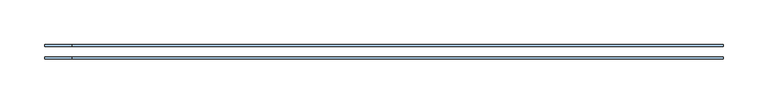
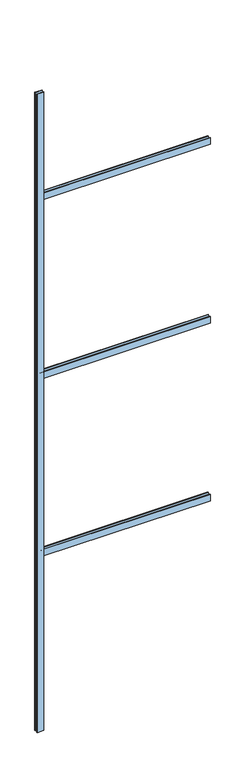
"""IFC4 building model written with IfcOpenShell, lengths in millimetres: window geometry, 32_IM_CF_verdeling_roedes : 32_IM_CF_verdeling_roedes_1x4."""

from ifc_helpers import new_model, si_unit, frame, origin, origin_with_axes, place, context, project, spatial, polyline, outline, extrude, source, transform, mapped, element, save


def window_2bc96638(model_context):
    return source(origin(), model_context, "Body", "SweptSolid", [
        extrude(outline(polyline([(-356.0, 6.0), (-386.0, 6.0), (-386.0, 8.0), (-356.0, 8.0), (-356.0, 6.0)])), origin_with_axes(), (0.0, 0.0, 1.0), 2945.0),
        extrude(outline(polyline([(-386.0, -8.0), (-386.0, -6.0), (-356.0, -6.0), (-356.0, -8.0), (-386.0, -8.0)])), origin_with_axes(), (0.0, 0.0, 1.0), 2945.0),
        extrude(outline(polyline([(371.0, 8.0), (371.0, 6.0), (-371.0, 6.0), (-371.0, 8.0), (371.0, 8.0)])), frame((0.0, 0.0, 805.0), z_axis=(0.0, 0.0, 1.0), x_axis=(1.0, 0.0, 0.0)), (0.0, 0.0, 1.0), 30.0),
        extrude(outline(polyline([(371.0, -6.0), (371.0, -8.0), (-371.0, -8.0), (-371.0, -6.0), (371.0, -6.0)])), frame((0.0, 0.0, 805.0), z_axis=(0.0, 0.0, 1.0), x_axis=(1.0, 0.0, 0.0)), (0.0, 0.0, 1.0), 30.0),
        extrude(outline(polyline([(371.0, 8.0), (371.0, 6.0), (-371.0, 6.0), (-371.0, 8.0), (371.0, 8.0)])), frame((0.0, 0.0, 2450.0), z_axis=(0.0, 0.0, 1.0), x_axis=(1.0, 0.0, 0.0)), (0.0, 0.0, 1.0), 30.0),
        extrude(outline(polyline([(371.0, -6.0), (371.0, -8.0), (-371.0, -8.0), (-371.0, -6.0), (371.0, -6.0)])), frame((0.0, 0.0, 2450.0), z_axis=(0.0, 0.0, 1.0), x_axis=(1.0, 0.0, 0.0)), (0.0, 0.0, 1.0), 30.0),
        extrude(outline(polyline([(371.0, 8.0), (371.0, 6.0), (-371.0, 6.0), (-371.0, 8.0), (371.0, 8.0)])), frame((0.0, 0.0, 1625.0), z_axis=(0.0, 0.0, 1.0), x_axis=(1.0, 0.0, 0.0)), (0.0, 0.0, 1.0), 30.0),
        extrude(outline(polyline([(371.0, -6.0), (371.0, -8.0), (-371.0, -8.0), (-371.0, -6.0), (371.0, -6.0)])), frame((0.0, 0.0, 1625.0), z_axis=(0.0, 0.0, 1.0), x_axis=(1.0, 0.0, 0.0)), (0.0, 0.0, 1.0), 30.0),
    ])


if __name__ == "__main__":
    model = new_model("IFC4")
    model_context = context("Model", 3, world=origin())
    ifc_project = project(units=[si_unit("LENGTHUNIT", "METRE", prefix="MILLI")], contexts=[model_context])
    site = spatial("IfcSite", under=ifc_project)
    building = spatial("IfcBuilding", under=site)
    placement = place(None, origin())
    window_shape = window_2bc96638(model_context)
    element("IfcWindow", 1, ObjectType="32_IM_CF_verdeling_roedes : 32_IM_CF_verdeling_roedes_1x4", at=placement, inside=building, context=model_context, shape_type="MappedRepresentation", body=[
        mapped(window_shape, transform((0.0, 0.0, 0.0), x_axis=(1.0, 0.0, 0.0), y_axis=(0.0, 1.0, 0.0), z_axis=(0.0, 0.0, 1.0))),
    ])
    save(model, "model.ifc")
